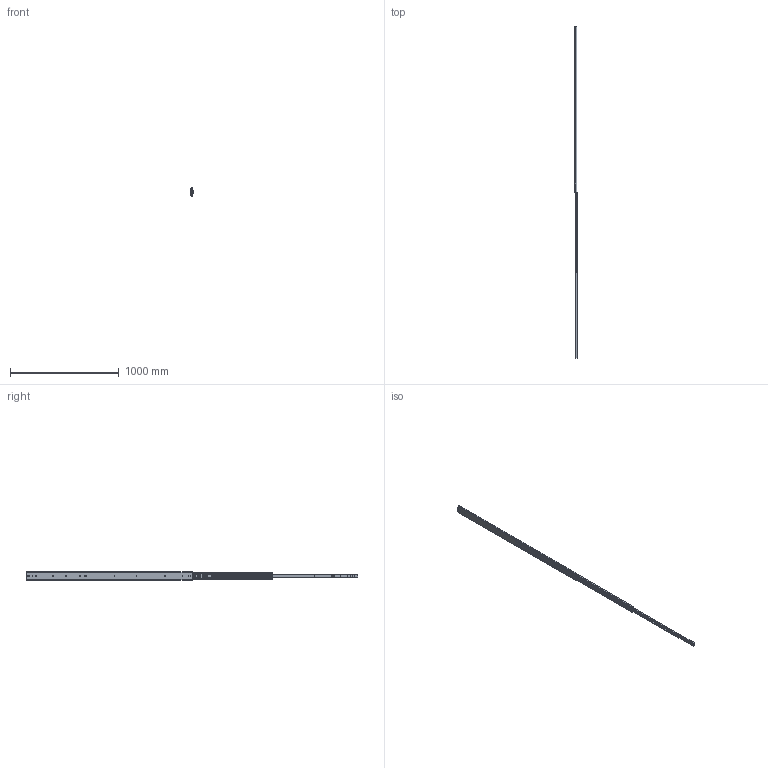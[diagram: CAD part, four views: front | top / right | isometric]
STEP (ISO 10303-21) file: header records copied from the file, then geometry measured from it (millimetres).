
FILE_DESCRIPTION(/* description */ ('Unknown'),/* implementation_level */ '2;1');
FILE_NAME(/* name */ '76J01-60 open',/* time_stamp */ '2024-07-30T14:03:47+08:00',/* author */ ('Unknown'),/* organization */ ('Unknown'),/* preprocessor_version */ 'ST-DEVELOPER v18.104',/* originating_system */ 'Solid Edge',/* authorisation */ 'Unknown');
FILE_SCHEMA (('AUTOMOTIVE_DESIGN {1 0 10303 214 3 1 1}'));
Length unit declared in the file: millimetre
Products named in the file (4): 76J01-60 open; 76J01 60 inch ､ｺ_0yｭ; 76J01 60 吋中_0; 76J01 60 吋
Assembly tree (3 placements, depth 2):
  76J01-60 open
    76J01 60 inch ､ｺ_0yｭ
    76J01 60 吋中_0
    76J01 60 吋
Bounding box: 19.3 x 3047.3 x 76.72 mm (x, y, z)
Volume: 1205080 mm3; surface area: 749159.7 mm2
Topology: 3 solids, 3 shells, 203 faces, 634 edges, 431 vertices
Faces by surface type: plane 104, cylinder 99
Full cylindrical faces by diameter (mm): 5.2 x23, 7.1 x2
Entity records: 7445 total; most frequent: CARTESIAN_POINT 1203, DIRECTION 1194, ORIENTED_EDGE 1168, EDGE_CURVE 584, VERTEX_POINT 406, AXIS2_PLACEMENT_3D 405, LINE 384, VECTOR 384
